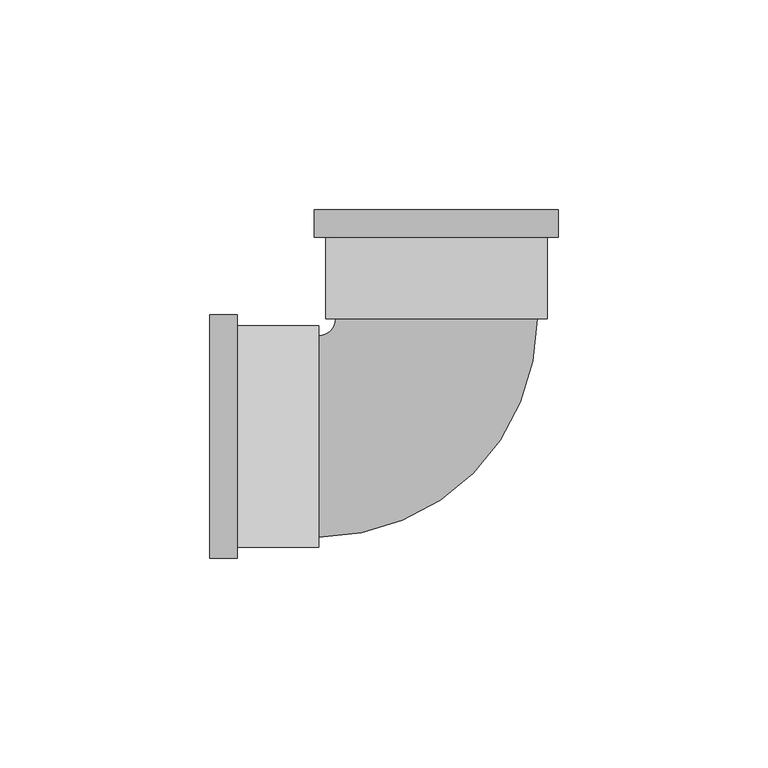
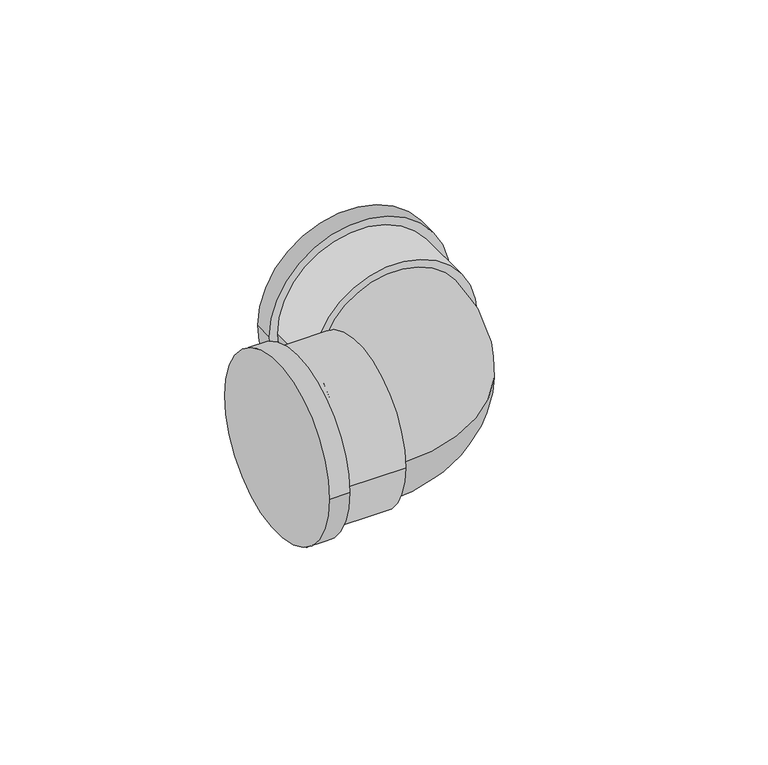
"""IFC4 building model written with IfcOpenShell, lengths in millimetres: pipe fitting geometry, Cotovelo - PVC - CW : Padrão."""

from ifc_helpers import new_model, si_unit, point, frame, origin, place, context, project, spatial, circle_curve, ellipse_curve, trimmed, source, transform, mapped, element, save
from ifc_brep_helpers import plane_surface, cylinder_surface, revolved_surface, advanced_brep


def pipe_fitting_e10b9b22(model_context):
    return source(origin(), model_context, "Body", "AdvancedBrep", [
        advanced_brep(
        [(-54.000543, -29.04, 0.0), (-54.000543, 29.04, 0.0), (-47.500543, -29.04, 0.0), (-47.500543, 29.04, 0.0), (-47.500543, -26.4, 0.0), (-47.500543, 26.4, 0.0), (-28.000543, 26.4, 0.0), (-28.000543, -26.4, 0.0), (-28.000543, -24.0, 0.0), (-28.000543, 24.0, 0.0), (-24.000543, 28.0000776, 0.0), (23.999457, 28.0010085, 0.0), (26.399457, 28.001055, 0.0), (-26.400543, 28.000031, 0.0), (-29.0410473, 53.9999798, 0.0), (29.0389527, 54.0011062, 0.0), (26.3990788, 47.501055, 0.0), (-26.4009212, 47.500031, 0.0), (-29.0409212, 47.4999798, 0.0), (29.0390788, 47.5011062, 0.0)],
        [
            (0, 1, circle_curve(frame((-54.000543, 0.0, 0.0), z_axis=(-1.0, 0.0, 0.0), x_axis=(0.0, 1.0, 0.0)), 29.04)),
            (1, 0, circle_curve(frame((-54.000543, 0.0, 0.0), z_axis=(-1.0, 0.0, 0.0), x_axis=(0.0, 1.0, 0.0)), 29.04)),
            (2, 3, circle_curve(frame((-47.500543, 0.0, 0.0), z_axis=(1.0, 0.0, 0.0), x_axis=(0.0, 1.0, 0.0)), 29.04)),
            (3, 2, circle_curve(frame((-47.500543, 0.0, 0.0), z_axis=(1.0, 0.0, 0.0), x_axis=(0.0, 1.0, 0.0)), 29.04)),
            (4, 5, circle_curve(frame((-47.500543, 0.0, 0.0), z_axis=(-1.0, 0.0, 0.0), x_axis=(0.0, -1.0, 0.0)), 26.4)),
            (5, 4, circle_curve(frame((-47.500543, 0.0, 0.0), z_axis=(-1.0, 0.0, 0.0), x_axis=(0.0, -1.0, 0.0)), 26.4)),
            (0, 2),
            (3, 1),
            (6, 7, circle_curve(frame((-28.000543, 0.0, 0.0), z_axis=(1.0, 0.0, 0.0), x_axis=(0.0, -1.0, 0.0)), 26.4)),
            (7, 6, circle_curve(frame((-28.000543, 0.0, 0.0), z_axis=(1.0, 0.0, 0.0), x_axis=(0.0, -1.0, 0.0)), 26.4)),
            (8, 9, circle_curve(frame((-28.000543, 0.0, 0.0), z_axis=(-1.0, 0.0, 0.0), x_axis=(0.0, 1.0, 0.0)), 24.0)),
            (9, 8, circle_curve(frame((-28.000543, 0.0, 0.0), z_axis=(-1.0, 0.0, 0.0), x_axis=(0.0, 1.0, 0.0)), 24.0)),
            (6, 5),
            (4, 7),
            (10, 9, circle_curve(frame((-28.000543, 28.0, 0.0), z_axis=(0.0, 0.0, -1.0), x_axis=(0.0, -1.0, 0.0)), 4.0)),
            (8, 11, circle_curve(frame((-28.000543, 28.0, 0.0), z_axis=(0.0, 0.0, 1.0), x_axis=(0.0, -1.0, 0.0)), 52.0)),
            (11, 10, circle_curve(frame((-0.000543, 28.000543, 0.0), z_axis=(1.9393922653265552e-05, -0.9999999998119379, 0.0), x_axis=(-0.9999999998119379, -1.9393922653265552e-05, 0.0)), 24.0)),
            (10, 11, circle_curve(frame((-0.000543, 28.000543, 0.0), z_axis=(1.9393922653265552e-05, -0.9999999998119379, 0.0), x_axis=(-0.9999999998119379, -1.9393922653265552e-05, 0.0)), 24.0)),
            (12, 13, circle_curve(frame((-0.000543, 28.000543, 0.0), z_axis=(1.9393923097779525e-05, -0.9999999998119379, 0.0), x_axis=(-0.9999999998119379, -1.9393923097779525e-05, 0.0)), 26.4)),
            (13, 12, circle_curve(frame((-0.000543, 28.000543, 0.0), z_axis=(1.9393923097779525e-05, -0.9999999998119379, 0.0), x_axis=(-0.9999999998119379, -1.9393923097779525e-05, 0.0)), 26.4)),
            (14, 15, circle_curve(frame((-0.0010473, 54.000543, 0.0), z_axis=(-1.9393922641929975e-05, 0.9999999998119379, 0.0), x_axis=(0.9999999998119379, 1.9393922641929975e-05, 0.0)), 29.04)),
            (15, 14, circle_curve(frame((-0.0010473, 54.000543, 0.0), z_axis=(-1.9393922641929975e-05, 0.9999999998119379, 0.0), x_axis=(0.9999999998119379, 1.9393922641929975e-05, 0.0)), 29.04)),
            (12, 16),
            (16, 17, circle_curve(frame((-0.0009212, 47.500543, 0.0), z_axis=(1.9393923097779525e-05, -0.9999999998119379, 0.0), x_axis=(-0.9999999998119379, -1.9393923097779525e-05, 0.0)), 26.4)),
            (17, 13),
            (17, 16, circle_curve(frame((-0.0009212, 47.500543, 0.0), z_axis=(1.9393923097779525e-05, -0.9999999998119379, 0.0), x_axis=(-0.9999999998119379, -1.9393923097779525e-05, 0.0)), 26.4)),
            (18, 19, circle_curve(frame((-0.0009212, 47.500543, 0.0), z_axis=(1.9393922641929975e-05, -0.9999999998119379, 0.0), x_axis=(0.9999999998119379, 1.9393922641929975e-05, 0.0)), 29.04)),
            (19, 18, circle_curve(frame((-0.0009212, 47.500543, 0.0), z_axis=(1.9393922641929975e-05, -0.9999999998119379, 0.0), x_axis=(0.9999999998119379, 1.9393922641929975e-05, 0.0)), 29.04)),
            (14, 18),
            (19, 15),
        ],
        [
            plane_surface(frame((-54.000543, 0.0, 0.0), z_axis=(-1.0, 0.0, 0.0), x_axis=(0.0, 0.0, 1.0))),
            plane_surface(frame((-47.500543, 0.0, 0.0), z_axis=(1.0, 0.0, 0.0), x_axis=(0.0, 0.0, 1.0))),
            cylinder_surface(frame((-54.000543, 0.0, 0.0), z_axis=(-1.0, 0.0, 0.0), x_axis=(0.0, 1.0, 0.0)), 29.04),
            plane_surface(frame((-28.000543, 0.0, 0.0), z_axis=(1.0, 0.0, 0.0), x_axis=(0.0, 0.0, 1.0))),
            cylinder_surface(frame((-28.000543, 0.0, 0.0), z_axis=(1.0, 0.0, 0.0), x_axis=(0.0, -1.0, 0.0)), 26.4),
            revolved_surface(trimmed(ellipse_curve(frame((-28.000543, 0.0, 0.0), z_axis=(-1.0, 0.0, 0.0), x_axis=(0.0, 1.0, 0.0)), 24.0, 24.0), [point((-28.000543, -24.0, 0.0))], [point((-28.000543, 24.0, 0.0))], True, "CARTESIAN"), (-28.000543, 28.0, 0.0), (0.0, 0.0, 1.0)),
            revolved_surface(trimmed(ellipse_curve(frame((-28.000543, 0.0, 0.0), z_axis=(-1.0, 0.0, 0.0), x_axis=(0.0, 1.0, 0.0)), 24.0, 24.0), [point((-28.000543, 24.0, 0.0))], [point((-28.000543, -24.0, 0.0))], True, "CARTESIAN"), (-28.000543, 28.0, 0.0), (0.0, 0.0, 1.0)),
            plane_surface(frame((-0.000543, 28.000543, 0.0), z_axis=(1.9393923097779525e-05, -0.9999999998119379, 0.0), x_axis=(0.0, 0.0, 1.0))),
            plane_surface(frame((-0.0010473, 54.000543, 0.0), z_axis=(-1.9393923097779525e-05, 0.9999999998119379, 0.0), x_axis=(0.0, 0.0, 1.0))),
            cylinder_surface(frame((-0.000543, 28.000543, 0.0), z_axis=(1.9393923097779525e-05, -0.9999999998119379, 0.0), x_axis=(-0.9999999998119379, -1.9393923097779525e-05, 0.0)), 26.4),
            plane_surface(frame((-0.0009212, 47.500543, 0.0), z_axis=(1.9393922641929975e-05, -0.9999999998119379, 0.0), x_axis=(0.0, 0.0, 1.0))),
            cylinder_surface(frame((-0.0010473, 54.000543, 0.0), z_axis=(-1.9393922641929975e-05, 0.9999999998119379, 0.0), x_axis=(0.9999999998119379, 1.9393922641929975e-05, 0.0)), 29.04),
        ],
        [
            (0, [[1, 2]]),
            (1, [[3, 4], [5, 6]]),
            (2, [[-1, 7, -4, 8]]),
            (2, [[-2, -8, -3, -7]]),
            (3, [[9, 10], [11, 12]]),
            (4, [[-9, 13, -5, 14]]),
            (4, [[-10, -14, -6, -13]]),
            (5, [[15, -11, 16, 17]]),
            (6, [[-15, 18, -16, -12]]),
            (7, [[19, 20], [-17, -18]]),
            (8, [[21, 22]]),
            (9, [[-19, 23, 24, 25]]),
            (9, [[-20, -25, 26, -23]]),
            (10, [[27, 28], [-24, -26]]),
            (11, [[-21, 29, -28, 30]]),
            (11, [[-22, -30, -27, -29]]),
        ],
    ),
    ])


if __name__ == "__main__":
    model = new_model("IFC4")
    model_context = context("Model", 3, world=origin())
    ifc_project = project(units=[si_unit("LENGTHUNIT", "METRE", prefix="MILLI")], contexts=[model_context])
    site = spatial("IfcSite", under=ifc_project)
    building = spatial("IfcBuilding", under=site)
    placement = place(None, origin())
    pipe_fitting_shape = pipe_fitting_e10b9b22(model_context)
    element("IfcPipeFitting", 1, ObjectType="Cotovelo - PVC - CW : Padrão", at=placement, inside=building, context=model_context, shape_type="MappedRepresentation", body=[
        mapped(pipe_fitting_shape, transform((0.0, 0.0, 0.0), x_axis=(1.0, 0.0, 0.0), y_axis=(0.0, 1.0, 0.0), z_axis=(0.0, 0.0, 1.0))),
    ])
    save(model, "model.ifc")
